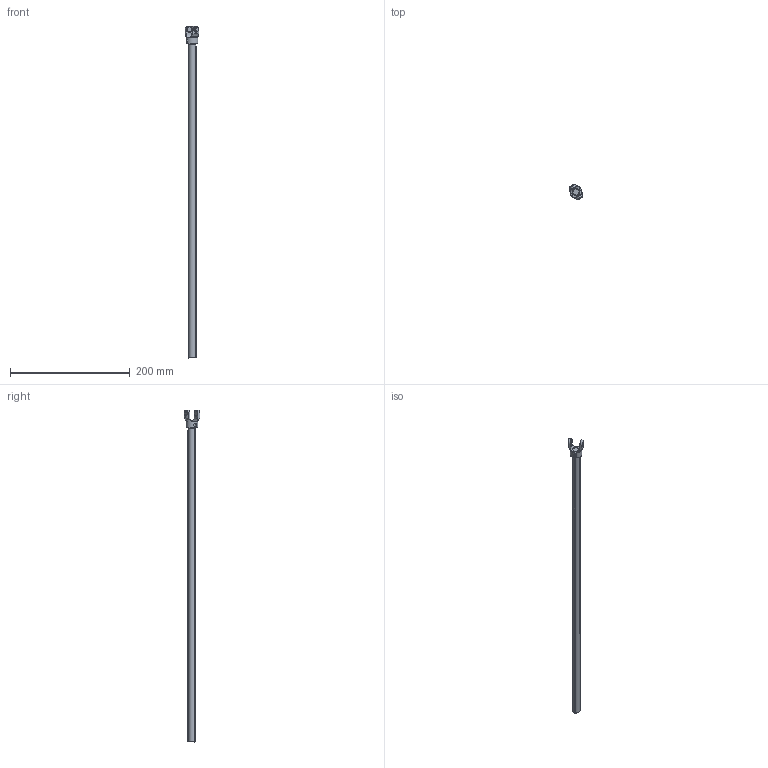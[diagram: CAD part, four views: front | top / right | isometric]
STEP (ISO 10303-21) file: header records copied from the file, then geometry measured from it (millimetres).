
FILE_DESCRIPTION (( 'STEP AP214' ), '1' );
FILE_NAME ('IRB360_X-1130-STD-4D_rev03_MU_CAD.STEP', '2023-12-04T07:58:19', ( '' ), ( '' ), 'SwSTEP 2.0', 'SolidWorks 2022', '' );
FILE_SCHEMA (( 'AUTOMOTIVE_DESIGN' ));
Length unit declared in the file: millimetre
Products named in the file (1): IRB360_X-1130-STD-4D_rev03_MU_CAD
Bounding box: 22.18 x 25.74 x 554.8 mm (x, y, z)
Volume: 63612.2 mm3; surface area: 27563.4 mm2
Topology: 4 solids, 4 shells, 90 faces, 219 edges, 134 vertices
Faces by surface type: cylinder 41, plane 23, torus 16, cone 10
Entity records: 3188 total; most frequent: CARTESIAN_POINT 1025, DIRECTION 451, ORIENTED_EDGE 434, EDGE_CURVE 217, AXIS2_PLACEMENT_3D 188, VERTEX_POINT 134, EDGE_LOOP 97, CIRCLE 97
